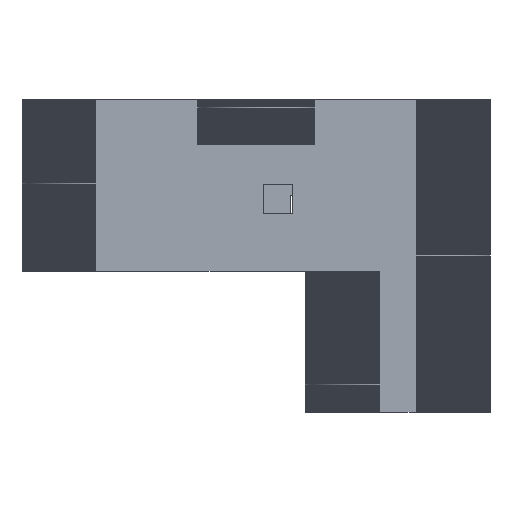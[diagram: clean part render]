
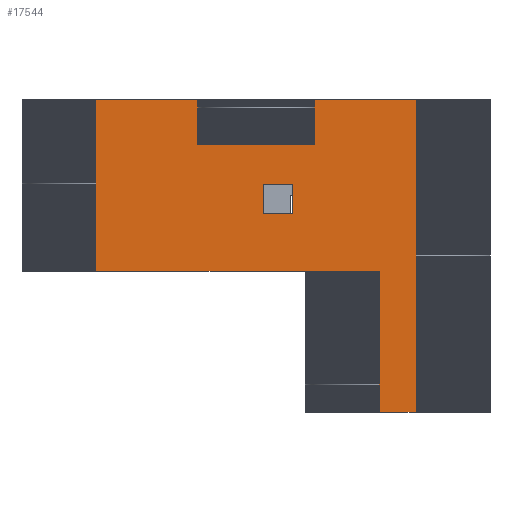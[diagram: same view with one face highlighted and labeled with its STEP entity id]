
A CAD part, front view. The second image highlights one B-rep face of the part: STEP entity #17544.
In plain terms, the highlighted planar face has unit normal (0, -1, 0).
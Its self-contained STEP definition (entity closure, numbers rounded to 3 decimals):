
#11315 = VERTEX_POINT('',#11316);
#11316 = CARTESIAN_POINT('',(21.7,-5.,-9.55));
#11322 = EDGE_CURVE('',#11323,#11315,#11325,.T.);
#11323 = VERTEX_POINT('',#11324);
#11324 = CARTESIAN_POINT('',(19.2,-5.,-9.55));
#11325 = LINE('',#11326,#11327);
#11326 = CARTESIAN_POINT('',(19.2,-5.,-9.55));
#11327 = VECTOR('',#11328,1.);
#11328 = DIRECTION('',(1.,0.,0.));
#17526 = EDGE_CURVE('',#11323,#17527,#17529,.T.);
#17527 = VERTEX_POINT('',#17528);
#17528 = CARTESIAN_POINT('',(19.2,-5.,0.));
#17529 = LINE('',#17530,#17531);
#17530 = CARTESIAN_POINT('',(19.2,-5.,-9.55));
#17531 = VECTOR('',#17532,1.);
#17532 = DIRECTION('',(0.,0.,1.));
#17544 = ADVANCED_FACE('',(#17545,#17579,#17613),#17647,.T.);
#17545 = FACE_BOUND('',#17546,.T.);
#17546 = EDGE_LOOP('',(#17547,#17557,#17565,#17571,#17572,#17573));
#17547 = ORIENTED_EDGE('',*,*,#17548,.T.);
#17548 = EDGE_CURVE('',#17549,#17551,#17553,.T.);
#17549 = VERTEX_POINT('',#17550);
#17550 = CARTESIAN_POINT('',(21.7,-5.,11.61));
#17551 = VERTEX_POINT('',#17552);
#17552 = CARTESIAN_POINT('',(0.,-5.,11.61));
#17553 = LINE('',#17554,#17555);
#17554 = CARTESIAN_POINT('',(21.7,-5.,11.61));
#17555 = VECTOR('',#17556,1.);
#17556 = DIRECTION('',(-1.,0.,0.));
#17557 = ORIENTED_EDGE('',*,*,#17558,.T.);
#17558 = EDGE_CURVE('',#17551,#17559,#17561,.T.);
#17559 = VERTEX_POINT('',#17560);
#17560 = CARTESIAN_POINT('',(0.,-5.,0.));
#17561 = LINE('',#17562,#17563);
#17562 = CARTESIAN_POINT('',(0.,-5.,11.61));
#17563 = VECTOR('',#17564,1.);
#17564 = DIRECTION('',(0.,0.,-1.));
#17565 = ORIENTED_EDGE('',*,*,#17566,.T.);
#17566 = EDGE_CURVE('',#17559,#17527,#17567,.T.);
#17567 = LINE('',#17568,#17569);
#17568 = CARTESIAN_POINT('',(0.,-5.,0.));
#17569 = VECTOR('',#17570,1.);
#17570 = DIRECTION('',(1.,0.,0.));
#17571 = ORIENTED_EDGE('',*,*,#17526,.F.);
#17572 = ORIENTED_EDGE('',*,*,#11322,.T.);
#17573 = ORIENTED_EDGE('',*,*,#17574,.T.);
#17574 = EDGE_CURVE('',#11315,#17549,#17575,.T.);
#17575 = LINE('',#17576,#17577);
#17576 = CARTESIAN_POINT('',(21.7,-5.,-9.55));
#17577 = VECTOR('',#17578,1.);
#17578 = DIRECTION('',(0.,0.,1.));
#17579 = FACE_BOUND('',#17580,.T.);
#17580 = EDGE_LOOP('',(#17581,#17591,#17599,#17607));
#17581 = ORIENTED_EDGE('',*,*,#17582,.T.);
#17582 = EDGE_CURVE('',#17583,#17585,#17587,.T.);
#17583 = VERTEX_POINT('',#17584);
#17584 = CARTESIAN_POINT('',(6.9,-5.,8.6));
#17585 = VERTEX_POINT('',#17586);
#17586 = CARTESIAN_POINT('',(6.9,-5.,11.6));
#17587 = LINE('',#17588,#17589);
#17588 = CARTESIAN_POINT('',(6.9,-5.,8.6));
#17589 = VECTOR('',#17590,1.);
#17590 = DIRECTION('',(0.,0.,1.));
#17591 = ORIENTED_EDGE('',*,*,#17592,.T.);
#17592 = EDGE_CURVE('',#17585,#17593,#17595,.T.);
#17593 = VERTEX_POINT('',#17594);
#17594 = CARTESIAN_POINT('',(14.8,-5.,11.6));
#17595 = LINE('',#17596,#17597);
#17596 = CARTESIAN_POINT('',(6.9,-5.,11.6));
#17597 = VECTOR('',#17598,1.);
#17598 = DIRECTION('',(1.,0.,0.));
#17599 = ORIENTED_EDGE('',*,*,#17600,.T.);
#17600 = EDGE_CURVE('',#17593,#17601,#17603,.T.);
#17601 = VERTEX_POINT('',#17602);
#17602 = CARTESIAN_POINT('',(14.8,-5.,8.6));
#17603 = LINE('',#17604,#17605);
#17604 = CARTESIAN_POINT('',(14.8,-5.,11.6));
#17605 = VECTOR('',#17606,1.);
#17606 = DIRECTION('',(0.,0.,-1.));
#17607 = ORIENTED_EDGE('',*,*,#17608,.T.);
#17608 = EDGE_CURVE('',#17601,#17583,#17609,.T.);
#17609 = LINE('',#17610,#17611);
#17610 = CARTESIAN_POINT('',(14.8,-5.,8.6));
#17611 = VECTOR('',#17612,1.);
#17612 = DIRECTION('',(-1.,0.,0.));
#17613 = FACE_BOUND('',#17614,.T.);
#17614 = EDGE_LOOP('',(#17615,#17625,#17633,#17641));
#17615 = ORIENTED_EDGE('',*,*,#17616,.T.);
#17616 = EDGE_CURVE('',#17617,#17619,#17621,.T.);
#17617 = VERTEX_POINT('',#17618);
#17618 = CARTESIAN_POINT('',(13.35,-5.,3.9));
#17619 = VERTEX_POINT('',#17620);
#17620 = CARTESIAN_POINT('',(11.35,-5.,3.9));
#17621 = LINE('',#17622,#17623);
#17622 = CARTESIAN_POINT('',(13.35,-5.,3.9));
#17623 = VECTOR('',#17624,1.);
#17624 = DIRECTION('',(-1.,0.,0.));
#17625 = ORIENTED_EDGE('',*,*,#17626,.T.);
#17626 = EDGE_CURVE('',#17619,#17627,#17629,.T.);
#17627 = VERTEX_POINT('',#17628);
#17628 = CARTESIAN_POINT('',(11.35,-5.,5.9));
#17629 = LINE('',#17630,#17631);
#17630 = CARTESIAN_POINT('',(11.35,-5.,3.9));
#17631 = VECTOR('',#17632,1.);
#17632 = DIRECTION('',(0.,0.,1.));
#17633 = ORIENTED_EDGE('',*,*,#17634,.T.);
#17634 = EDGE_CURVE('',#17627,#17635,#17637,.T.);
#17635 = VERTEX_POINT('',#17636);
#17636 = CARTESIAN_POINT('',(13.35,-5.,5.9));
#17637 = LINE('',#17638,#17639);
#17638 = CARTESIAN_POINT('',(11.35,-5.,5.9));
#17639 = VECTOR('',#17640,1.);
#17640 = DIRECTION('',(1.,0.,0.));
#17641 = ORIENTED_EDGE('',*,*,#17642,.T.);
#17642 = EDGE_CURVE('',#17635,#17617,#17643,.T.);
#17643 = LINE('',#17644,#17645);
#17644 = CARTESIAN_POINT('',(13.35,-5.,5.9));
#17645 = VECTOR('',#17646,1.);
#17646 = DIRECTION('',(0.,0.,-1.));
#17647 = PLANE('',#17648);
#17648 = AXIS2_PLACEMENT_3D('',#17649,#17650,#17651);
#17649 = CARTESIAN_POINT('',(12.989,-5.,3.169));
#17650 = DIRECTION('',(-0.,-1.,-0.));
#17651 = DIRECTION('',(0.,0.,-1.));
